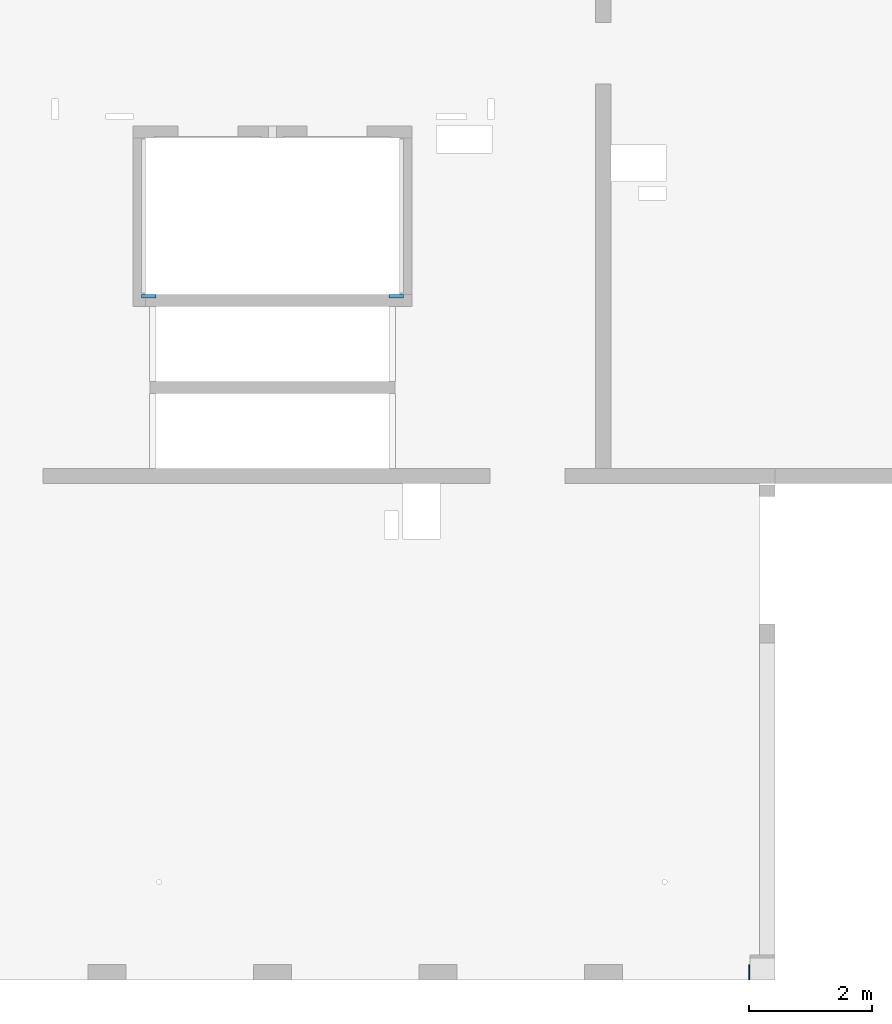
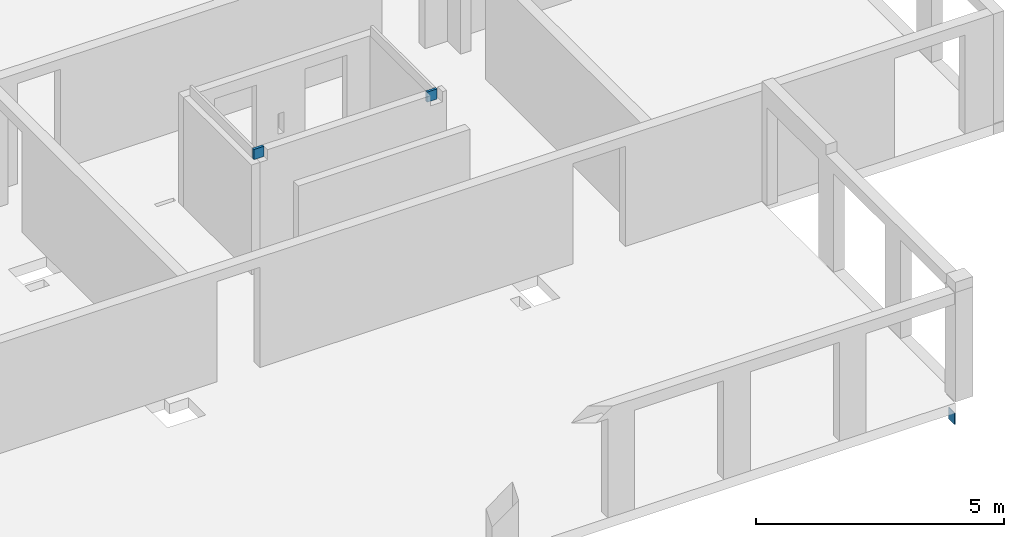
# One storey, part 7 of 8: 3 walls, 1 opening.
"""IFC2X3 building model written with IfcOpenShell, lengths in millimetres."""

import ifcopenshell
import ifcopenshell.guid

model = None  # the IFC model being written
_history = None  # IfcOwnerHistory: only IFC2X3 demands one
_inside = {}  # id of a spatial element -> (the spatial element, [elements in it])
_under = {}  # id of a project, library or spatial element -> (it, [spatial elements below it])
_declared = {}  # id of a project -> (the project, [libraries it declares])
_typed = {}  # id of a type object -> (the type object, [elements of that type])
_made_of = {}  # id of a material, layer set ... -> (it, [elements and type objects made of it])


def new_model(schema):
    """Start an empty IFC model of exactly this schema.

    Asked for "IFC4X3", IfcOpenShell would pick the latest addendum, in which some entities
    have other attributes; the version numbers below select the first issue.
    IFC2X3 requires an IfcOwnerHistory on every rooted entity: one is made here for all.
    """
    global model, _history
    if schema == "IFC4X3":
        model = ifcopenshell.file(schema_version=(4, 3, 0, 0))
    else:
        model = ifcopenshell.file(schema=schema)
    _inside.clear()
    _under.clear()
    _declared.clear()
    _typed.clear()
    _made_of.clear()
    _history = None
    if model.schema == "IFC2X3":
        org = make("IfcOrganization", Name="unknown")
        user = make(
            "IfcPersonAndOrganization",
            ThePerson=make("IfcPerson", FamilyName="unknown"),
            TheOrganization=org,
        )
        app = make(
            "IfcApplication",
            ApplicationDeveloper=org,
            Version="unknown",
            ApplicationFullName="unknown",
            ApplicationIdentifier="unknown",
        )
        _history = make(
            "IfcOwnerHistory",
            OwningUser=user,
            OwningApplication=app,
            ChangeAction="ADDED",
            CreationDate=0,
        )
    return model


def make(cls, **values):
    """One entity of the class cls with the attributes given. An attribute that is None is left unset."""
    return model.create_entity(
        cls, **{name: value for name, value in values.items() if value is not None}
    )


def entity(cls, *values):
    """Any entity or typed value of the class cls, its attributes in the order of the schema. None: left unset."""
    e = model.create_entity(cls)
    for i, value in enumerate(values):
        if value is not None:
            e[i] = value
    return e


def rooted(cls, **values):
    """An entity with a GlobalId (a new one), such as an element, a storey or a relation."""
    return make(cls, GlobalId=ifcopenshell.guid.new(), OwnerHistory=_history, **values)


def si_unit(unit_type, name, prefix=None):
    """IfcSIUnit, for example si_unit("LENGTHUNIT", "METRE", prefix="MILLI")."""
    return make("IfcSIUnit", UnitType=unit_type, Prefix=prefix, Name=name)


def converted_unit(unit_type, name, factor, base, dimensions=None, offset=None):
    """IfcConversionBasedUnit, such as the inch: factor (a typed value) times the base unit."""
    return make(
        "IfcConversionBasedUnit"
        if offset is None
        else "IfcConversionBasedUnitWithOffset",
        ConversionOffset=offset,
        Dimensions=None
        if dimensions is None
        else entity("IfcDimensionalExponents", *dimensions),
        UnitType=unit_type,
        Name=name,
        ConversionFactor=make(
            "IfcMeasureWithUnit", ValueComponent=factor, UnitComponent=base
        ),
    )


def derived_unit(unit_type, elements):
    """IfcDerivedUnit: a product of units, each with its exponent."""
    return make(
        "IfcDerivedUnit",
        Elements=[
            make("IfcDerivedUnitElement", Unit=unit, Exponent=power)
            for unit, power in elements
        ],
        UnitType=unit_type,
    )


def assignment(units):
    """IfcUnitAssignment: the units of a project."""
    return None if units is None else make("IfcUnitAssignment", Units=units)


def point(xyz):
    """IfcCartesianPoint."""
    return None if xyz is None else make("IfcCartesianPoint", Coordinates=xyz)


def direction(xyz):
    """IfcDirection."""
    return None if xyz is None else make("IfcDirection", DirectionRatios=xyz)


def frame(location, z_axis=None, x_axis=None):
    """IfcAxis2Placement3D, a coordinate frame: its origin and axes. An axis left out is left unset."""
    return make(
        "IfcAxis2Placement3D",
        Location=point(location),
        Axis=direction(z_axis),
        RefDirection=direction(x_axis),
    )


def frame_2d(location, x_axis=None):
    """IfcAxis2Placement2D, a coordinate frame in the plane: its origin and x axis."""
    return make(
        "IfcAxis2Placement2D", Location=point(location), RefDirection=direction(x_axis)
    )


def origin():
    """The frame at (0, 0, 0) with its axes left unset."""
    return frame((0.0, 0.0, 0.0))


def place(relative_to, where):
    """IfcLocalPlacement: puts the frame where relative to a parent placement (None: the world)."""
    return make(
        "IfcLocalPlacement", PlacementRelTo=relative_to, RelativePlacement=where
    )


def context(
    kind, dimensions, precision=None, world=None, true_north=None, identifier=None
):
    """IfcGeometricRepresentationContext, for example the 3D "Model" context."""
    return make(
        "IfcGeometricRepresentationContext",
        ContextIdentifier=identifier,
        ContextType=kind,
        CoordinateSpaceDimension=dimensions,
        Precision=precision,
        WorldCoordinateSystem=world,
        TrueNorth=true_north,
    )


def subcontext(parent, identifier, kind, view, scale=None):
    """IfcGeometricRepresentationSubContext, for example "Body" below "Model"."""
    return make(
        "IfcGeometricRepresentationSubContext",
        ContextIdentifier=identifier,
        ContextType=kind,
        ParentContext=parent,
        TargetScale=scale,
        TargetView=view,
    )


def project(units=None, contexts=None):
    """IfcProject with its units and contexts."""
    return rooted(
        "IfcProject",
        Name="project",
        RepresentationContexts=contexts,
        UnitsInContext=assignment(units),
    )


def spatial(cls, under=None, at=None, **own):
    """A site, building, storey or space (cls), placed at a placement, below another one or the project."""
    s = rooted(cls, ObjectPlacement=at, **own)
    if under is not None:
        _under.setdefault(under.id(), (under, []))[1].append(s)
    return s


def profile(cls, at=None, kind="AREA", **sizes):
    """A parametric profile (cls). Its sizes go by their IFC names, for example OverallWidth=200.0."""
    return make(cls, ProfileType=kind, Position=at, **sizes)


def rectangle(**sizes):
    """IfcRectangleProfileDef."""
    return profile("IfcRectangleProfileDef", **sizes)


def extrude(swept, where, along, depth):
    """IfcExtrudedAreaSolid: the profile swept, set in the frame where, extruded along a direction by depth."""
    return make(
        "IfcExtrudedAreaSolid",
        SweptArea=swept,
        Position=where,
        ExtrudedDirection=direction(along),
        Depth=depth,
    )


def shape(context_of_items, identifier, shape_type, items):
    """IfcShapeRepresentation: the items that make up one representation, for example the "Body"."""
    return make(
        "IfcShapeRepresentation",
        ContextOfItems=context_of_items,
        RepresentationIdentifier=identifier,
        RepresentationType=shape_type,
        Items=items,
    )


def material(Name=None, Category=None):
    """IfcMaterial."""
    return make("IfcMaterial", Name=Name, Category=Category)


def layer(
    of_material, thickness, ventilated=None, Name=None, Category=None, Priority=None
):
    """IfcMaterialLayer: one layer of a wall or slab, of a material (None: an air gap)."""
    return make(
        "IfcMaterialLayer",
        Material=of_material,
        LayerThickness=thickness,
        IsVentilated=ventilated,
        Name=Name,
        Category=Category,
        Priority=Priority,
    )


def layer_set(layers, Name=None):
    """IfcMaterialLayerSet."""
    return make("IfcMaterialLayerSet", MaterialLayers=layers, LayerSetName=Name)


def layer_usage(for_layer_set, set_direction, sense, offset, extent=None):
    """IfcMaterialLayerSetUsage: how a layer set lies in its element."""
    return make(
        "IfcMaterialLayerSetUsage",
        ForLayerSet=for_layer_set,
        LayerSetDirection=set_direction,
        DirectionSense=sense,
        OffsetFromReferenceLine=offset,
        ReferenceExtent=extent,
    )


def made_of(thing, what):
    """Note that an element or type object is made of a material, layer set ...; save() writes the relation."""
    if what is not None:
        _made_of.setdefault(what.id(), (what, []))[1].append(thing)
    return thing


def type_object(cls, material=None, **own):
    """A type object (cls), such as IfcWallType, which elements share."""
    return made_of(rooted(cls, **own), material)


def element(
    cls,
    number,
    at=None,
    inside=None,
    cuts=None,
    type_object=None,
    material=None,
    context=None,
    identifier="Body",
    shape_type=None,
    held_by="IfcProductDefinitionShape",
    body=None,
    shapes=None,
    **own,
):
    """One element of the class cls, such as IfcWall. Its Tag is "e" and its number.

    at: its placement. inside: the storey or other place that contains it. cuts: it is an
    opening in that element (IfcRelVoidsElement). A single representation is given by context,
    identifier, shape_type and body (its items); several are given by shapes. held_by: the class
    of the entity that holds the representations. save() writes the other relations.
    """
    e = rooted(cls, Tag="e%d" % number, ObjectPlacement=at, **own)
    if body is not None:
        shapes = [shape(context, identifier, shape_type, body)]
    if shapes is not None:
        e.Representation = make(held_by, Representations=shapes)
    if inside is not None:
        _inside.setdefault(inside.id(), (inside, []))[1].append(e)
    if cuts is not None:
        rooted(
            "IfcRelVoidsElement", RelatingBuildingElement=cuts, RelatedOpeningElement=e
        )
    if type_object is not None:
        _typed.setdefault(type_object.id(), (type_object, []))[1].append(e)
    return made_of(e, material)


def aggregate(whole, parts):
    """IfcRelAggregates: a whole, such as a stair, and the parts it consists of."""
    return rooted("IfcRelAggregates", RelatingObject=whole, RelatedObjects=parts)


def save(model, path):
    """Write the relations noted so far, then the file.

    IfcRelAggregates (storeys below a building ...), IfcRelContainedInSpatialStructure (elements
    in a storey), IfcRelDefinesByType, IfcRelAssociatesMaterial and IfcRelDeclares: one each for
    every whole, place, type object, material and project.
    """
    for whole, parts in _under.values():
        aggregate(whole, parts)
    for where, things in _inside.values():
        rooted(
            "IfcRelContainedInSpatialStructure",
            RelatedElements=things,
            RelatingStructure=where,
        )
    for kind, things in _typed.values():
        rooted("IfcRelDefinesByType", RelatedObjects=things, RelatingType=kind)
    for what, things in _made_of.values():
        rooted("IfcRelAssociatesMaterial", RelatedObjects=things, RelatingMaterial=what)
    for by, libraries in _declared.values():
        rooted("IfcRelDeclares", RelatingContext=by, RelatedDefinitions=libraries)
    model.write(path)


model = new_model("IFC2X3")

# Units and contexts
model_context = context("Model", 3, precision=0.01, world=origin(), true_north=direction((6.12303176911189e-17, 1.0)))
body_context = subcontext(model_context, "Body", "Model", "MODEL_VIEW")
ifc_project = project(units=[si_unit("LENGTHUNIT", "METRE", prefix="MILLI"), si_unit("AREAUNIT", "SQUARE_METRE"), si_unit("VOLUMEUNIT", "CUBIC_METRE"), converted_unit("PLANEANGLEUNIT", "DEGREE", entity("IfcRatioMeasure", 0.0174532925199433), si_unit("PLANEANGLEUNIT", "RADIAN"), dimensions=[0, 0, 0, 0, 0, 0, 0]), si_unit("MASSUNIT", "GRAM", prefix="KILO"), derived_unit("MASSDENSITYUNIT", [(si_unit("MASSUNIT", "GRAM", prefix="KILO"), 1), (si_unit("LENGTHUNIT", "METRE"), -3)]), si_unit("TIMEUNIT", "SECOND"), si_unit("FREQUENCYUNIT", "HERTZ"), si_unit("THERMODYNAMICTEMPERATUREUNIT", "DEGREE_CELSIUS"), derived_unit("THERMALTRANSMITTANCEUNIT", [(si_unit("MASSUNIT", "GRAM", prefix="KILO"), 1), (si_unit("THERMODYNAMICTEMPERATUREUNIT", "KELVIN"), -1), (si_unit("TIMEUNIT", "SECOND"), -3)]), derived_unit("VOLUMETRICFLOWRATEUNIT", [(si_unit("LENGTHUNIT", "METRE"), 3), (si_unit("TIMEUNIT", "SECOND"), -1)]), si_unit("ELECTRICCURRENTUNIT", "AMPERE"), si_unit("ELECTRICVOLTAGEUNIT", "VOLT"), si_unit("POWERUNIT", "WATT"), si_unit("FORCEUNIT", "NEWTON", prefix="KILO"), si_unit("ILLUMINANCEUNIT", "LUX"), si_unit("LUMINOUSFLUXUNIT", "LUMEN"), si_unit("LUMINOUSINTENSITYUNIT", "CANDELA"), derived_unit("USERDEFINED", [(si_unit("MASSUNIT", "GRAM", prefix="KILO"), -1), (si_unit("LENGTHUNIT", "METRE"), -2), (si_unit("TIMEUNIT", "SECOND"), 3), (si_unit("LUMINOUSFLUXUNIT", "LUMEN"), 1)]), derived_unit("LINEARVELOCITYUNIT", [(si_unit("LENGTHUNIT", "METRE"), 1), (si_unit("TIMEUNIT", "SECOND"), -1)]), si_unit("PRESSUREUNIT", "PASCAL"), derived_unit("USERDEFINED", [(si_unit("LENGTHUNIT", "METRE"), -2), (si_unit("MASSUNIT", "GRAM", prefix="KILO"), 1), (si_unit("TIMEUNIT", "SECOND"), -2)])], contexts=[model_context])

# Site, building, storey
site_placement = place(None, origin())
site = spatial("IfcSite", under=ifc_project, at=site_placement, Name="Default", CompositionType="ELEMENT")
building_placement = place(site_placement, origin())
building = spatial("IfcBuilding", under=site, at=building_placement, Name="niet gebruiken", CompositionType="ELEMENT")
storey_placement = place(building_placement, frame((0.0, 0.0, 36360.0)))
storey = spatial("IfcBuildingStorey", under=building, at=storey_placement, Name="12 twaalfde verdieping", CompositionType="ELEMENT", Elevation=36360.0)

# Wall, opening
ifc_material_1 = material(Name="NLRS_f2_beton ihwg")
ifc_layer_1 = layer(ifc_material_1, 250.0)
ifc_layer_set_1 = layer_set([ifc_layer_1], Name="Basic Wall:NLRS_21.21_WA_beton ihwg d=250_gen")
ifc_layer_usage_1 = layer_usage(ifc_layer_set_1, "AXIS2", "NEGATIVE", 125.0)
wall_type_1 = type_object("IfcWallType", Name="Basic Wall:NLRS_21.21_WA_beton ihwg d=250_gen", PredefinedType="STANDARD", material=ifc_layer_set_1)
wall_1_placement = place(storey_placement, frame((99570.0, 28881.0, -620.0)))
wall_1 = element("IfcWallStandardCase", 1, at=wall_1_placement, inside=storey, type_object=wall_type_1, material=ifc_layer_usage_1, Name="Basic Wall:NLRS_21.21_WA_beton ihwg d=250_gen", ObjectType="Basic Wall:NLRS_21.21_WA_beton ihwg d=250_gen", context=body_context, shape_type="SweptSolid", body=[
    extrude(rectangle(XDim=19.9999999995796, YDim=250.000000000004, at=frame_2d((9.99999999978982, 1.63424829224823e-13), x_axis=(-1.0, 0.0))), origin(), (0.0, 0.0, 1.0), 280.000000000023),
])
opening_placement = place(wall_1_placement, origin())
element("IfcOpeningElement", 2, at=opening_placement, cuts=wall_1, Name="Basic Wall:NLRS_21.21_WA_beton ihwg d=250_gen", ObjectType="Opening", context=body_context, shape_type="SweptSolid", body=[
    extrude(rectangle(XDim=2440.0, YDim=2080.0, at=frame_2d((-8.64019966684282e-12, -2.1600499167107e-12), x_axis=(0.0, 1.0))), frame((-1020.0, -1399.0, -1220.0), z_axis=(0.0, 1.0, 0.0), x_axis=(-1.0, 0.0, 0.0)), (0.0, 0.0, 1.0), 3048.0),
])

# Walls
ifc_material_2 = material(Name="NLRS_f2_beton prefab")
ifc_layer_2 = layer(ifc_material_2, 60.0)
ifc_layer_set_2 = layer_set([ifc_layer_2], Name="Basic Wall:NLRS_22.21_WA_beton prefab d=60_gen")
ifc_layer_usage_2 = layer_usage(ifc_layer_set_2, "AXIS2", "NEGATIVE", 30.0)
wall_type_2 = type_object("IfcWallType", Name="Basic Wall:NLRS_22.21_WA_beton prefab d=60_gen", PredefinedType="STANDARD", material=ifc_layer_set_2)
wall_2_placement = place(storey_placement, frame((89665.0, 39916.0, 2630.0)))
element("IfcWallStandardCase", 3, at=wall_2_placement, inside=storey, type_object=wall_type_2, material=ifc_layer_usage_2, Name="Basic Wall:NLRS_22.21_WA_beton prefab d=60_gen", ObjectType="Basic Wall:NLRS_22.21_WA_beton prefab d=60_gen", context=body_context, shape_type="SweptSolid", body=[
    extrude(rectangle(XDim=234.999967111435, YDim=60.0000000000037, at=frame_2d((117.499983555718, -4.12292422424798e-12), x_axis=(-1.0, 0.0))), origin(), (0.0, 0.0, 1.0), 250.000000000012),
])
ifc_layer_usage_3 = layer_usage(ifc_layer_set_2, "AXIS2", "POSITIVE", -30.0)
wall_3_placement = place(storey_placement, frame((93935.0, 39916.0, 2630.0), z_axis=(0.0, 0.0, 1.0), x_axis=(-1.0, 0.0, 0.0)))
element("IfcWallStandardCase", 4, at=wall_3_placement, inside=storey, type_object=wall_type_2, material=ifc_layer_usage_3, Name="Basic Wall:NLRS_22.21_WA_beton prefab d=60_gen", ObjectType="Basic Wall:NLRS_22.21_WA_beton prefab d=60_gen", context=body_context, shape_type="SweptSolid", body=[
    extrude(rectangle(XDim=234.999967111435, YDim=60.0000000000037, at=frame_2d((117.499983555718, 4.12114786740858e-12), x_axis=(-1.0, 0.0))), origin(), (0.0, 0.0, 1.0), 250.000000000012),
])

save(model, "model.ifc")
